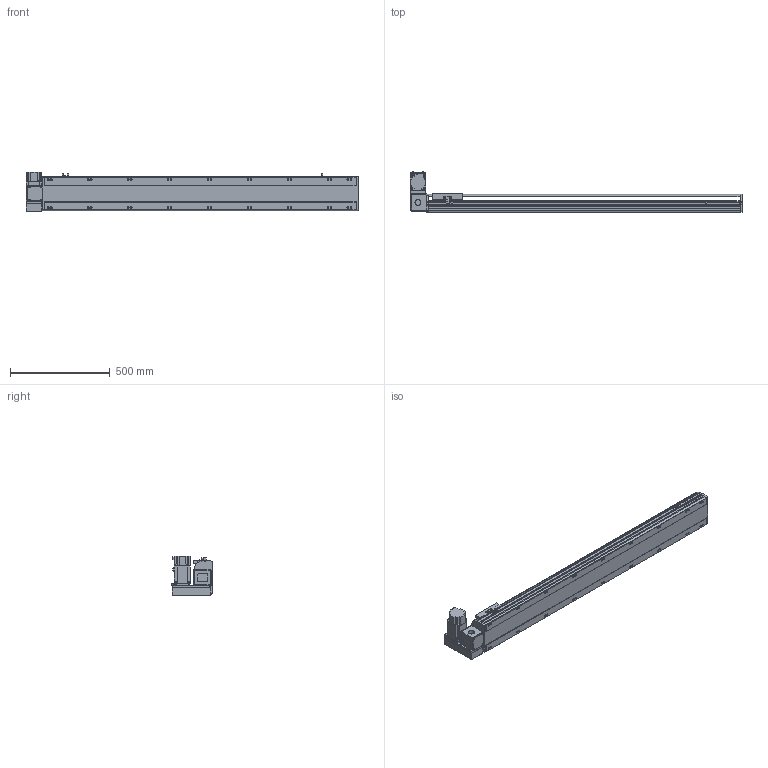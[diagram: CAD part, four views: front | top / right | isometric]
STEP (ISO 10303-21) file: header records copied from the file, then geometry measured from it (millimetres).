
FILE_DESCRIPTION( ( 'STEP AP214' ), '1' );
FILE_NAME( 'x:/temp/worker_4/temp/exporttempdir_2248_400_gHzgE/format_0/PBS170-P40-S1300-LU-T75-C1-N(0).stp', '2022-06-07T08:15:41', ( 'License CC BY-ND 4.0' ), ( 'CADENAS' ), ' ', 'PARTsolutions', ' ' );
FILE_SCHEMA( ( 'AUTOMOTIVE_DESIGN { 1 0 10303 214 1 1 1 1 }' ) );
Length unit declared in the file: millimetre
Products named in the file (7): PBS170-P40-S1300-LU-T75-C1-N(0); _PBS170-S1300()_body; _PBS170T-LU_motors; _T75-p1; _PBS170_sliser; _PBS170_plant; _PBS170_sensor
Assembly tree (8 placements, depth 2):
  PBS170-P40-S1300-LU-T75-C1-N(0)
    _PBS170-S1300()_body
    _PBS170T-LU_motors
    _T75-p1
    _PBS170_sliser
    _PBS170_plant
    _PBS170_sensor  x3
Bounding box: 1663 x 206 x 197.3 mm (x, y, z)
Volume: 13126933.6 mm3; surface area: 1698494 mm2
Topology: 8 solids, 8 shells, 1098 faces, 2915 edges, 1900 vertices
Faces by surface type: plane 693, cylinder 347, cone 48, sphere 8, torus 2
Full cylindrical faces by diameter (mm): 3.242 x4, 4 x2, 4.4 x4, 4.5 x6, 4.917 x4, 6 x9, 6.647 x26, 7 x2, 7.5 x4, 8 x8, 8.5 x18, 10 x4, 10.5 x18, 11 x2, 30 x2, 40 x1, 70 x1
Entity records: 40382 total; most frequent: CARTESIAN_POINT 6389, DIRECTION 5370, ORIENTED_EDGE 5088, EDGE_CURVE 2544, AXIS2_PLACEMENT_3D 1867, VERTEX_POINT 1754, LINE 1636, VECTOR 1636
